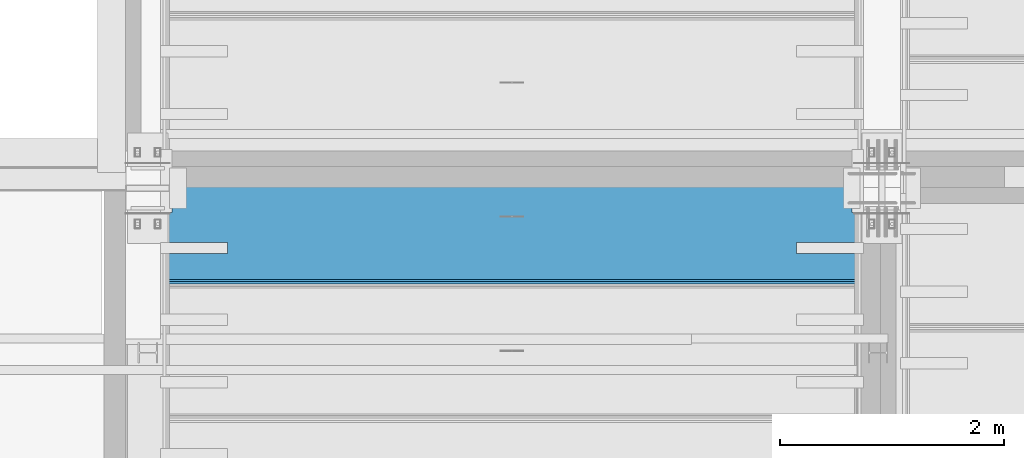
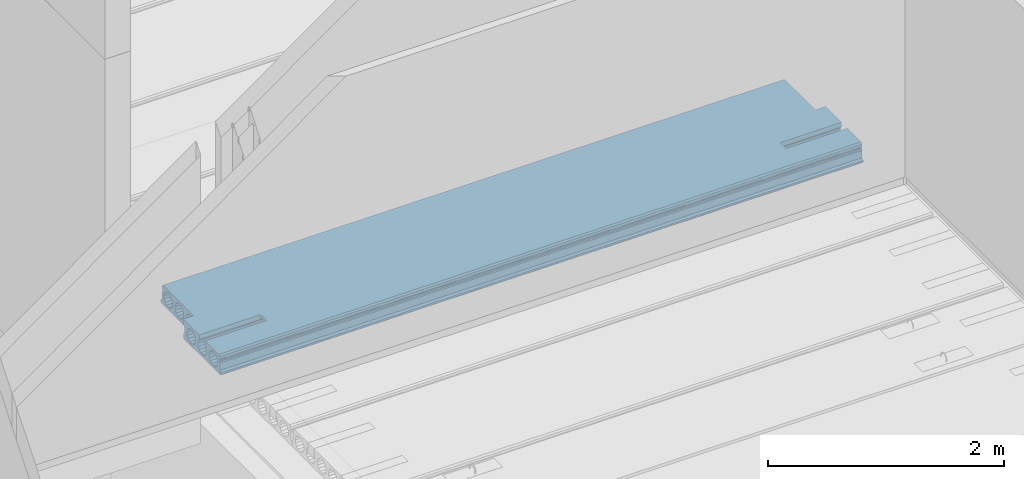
# One storey, part 124 of 230: 1 beam.
"""IFC4X3_ADD2 building model written with IfcOpenShell, lengths in millimetres."""

import ifcopenshell
import ifcopenshell.guid

model = None  # the IFC model being written
_history = None  # IfcOwnerHistory: only IFC2X3 demands one
_inside = {}  # id of a spatial element -> (the spatial element, [elements in it])
_under = {}  # id of a project, library or spatial element -> (it, [spatial elements below it])
_declared = {}  # id of a project -> (the project, [libraries it declares])
_typed = {}  # id of a type object -> (the type object, [elements of that type])
_made_of = {}  # id of a material, layer set ... -> (it, [elements and type objects made of it])


def new_model(schema):
    """Start an empty IFC model of exactly this schema.

    Asked for "IFC4X3", IfcOpenShell would pick the latest addendum, in which some entities
    have other attributes; the version numbers below select the first issue.
    IFC2X3 requires an IfcOwnerHistory on every rooted entity: one is made here for all.
    """
    global model, _history
    if schema == "IFC4X3":
        model = ifcopenshell.file(schema_version=(4, 3, 0, 0))
    else:
        model = ifcopenshell.file(schema=schema)
    _inside.clear()
    _under.clear()
    _declared.clear()
    _typed.clear()
    _made_of.clear()
    _history = None
    if model.schema == "IFC2X3":
        org = make("IfcOrganization", Name="unknown")
        user = make(
            "IfcPersonAndOrganization",
            ThePerson=make("IfcPerson", FamilyName="unknown"),
            TheOrganization=org,
        )
        app = make(
            "IfcApplication",
            ApplicationDeveloper=org,
            Version="unknown",
            ApplicationFullName="unknown",
            ApplicationIdentifier="unknown",
        )
        _history = make(
            "IfcOwnerHistory",
            OwningUser=user,
            OwningApplication=app,
            ChangeAction="ADDED",
            CreationDate=0,
        )
    return model


def make(cls, **values):
    """One entity of the class cls with the attributes given. An attribute that is None is left unset."""
    return model.create_entity(
        cls, **{name: value for name, value in values.items() if value is not None}
    )


def rooted(cls, **values):
    """An entity with a GlobalId (a new one), such as an element, a storey or a relation."""
    return make(cls, GlobalId=ifcopenshell.guid.new(), OwnerHistory=_history, **values)


def si_unit(unit_type, name, prefix=None):
    """IfcSIUnit, for example si_unit("LENGTHUNIT", "METRE", prefix="MILLI")."""
    return make("IfcSIUnit", UnitType=unit_type, Prefix=prefix, Name=name)


def assignment(units):
    """IfcUnitAssignment: the units of a project."""
    return None if units is None else make("IfcUnitAssignment", Units=units)


def point(xyz):
    """IfcCartesianPoint."""
    return None if xyz is None else make("IfcCartesianPoint", Coordinates=xyz)


def direction(xyz):
    """IfcDirection."""
    return None if xyz is None else make("IfcDirection", DirectionRatios=xyz)


def frame(location, z_axis=None, x_axis=None):
    """IfcAxis2Placement3D, a coordinate frame: its origin and axes. An axis left out is left unset."""
    return make(
        "IfcAxis2Placement3D",
        Location=point(location),
        Axis=direction(z_axis),
        RefDirection=direction(x_axis),
    )


def origin_with_axes():
    """The frame at (0, 0, 0) with the z axis (0, 0, 1) and the x axis (1, 0, 0) written out."""
    return frame((0.0, 0.0, 0.0), z_axis=(0.0, 0.0, 1.0), x_axis=(1.0, 0.0, 0.0))


def place(relative_to, where):
    """IfcLocalPlacement: puts the frame where relative to a parent placement (None: the world)."""
    return make(
        "IfcLocalPlacement", PlacementRelTo=relative_to, RelativePlacement=where
    )


def context(
    kind, dimensions, precision=None, world=None, true_north=None, identifier=None
):
    """IfcGeometricRepresentationContext, for example the 3D "Model" context."""
    return make(
        "IfcGeometricRepresentationContext",
        ContextIdentifier=identifier,
        ContextType=kind,
        CoordinateSpaceDimension=dimensions,
        Precision=precision,
        WorldCoordinateSystem=world,
        TrueNorth=true_north,
    )


def subcontext(parent, identifier, kind, view, scale=None):
    """IfcGeometricRepresentationSubContext, for example "Body" below "Model"."""
    return make(
        "IfcGeometricRepresentationSubContext",
        ContextIdentifier=identifier,
        ContextType=kind,
        ParentContext=parent,
        TargetScale=scale,
        TargetView=view,
    )


def project(units=None, contexts=None):
    """IfcProject with its units and contexts."""
    return rooted(
        "IfcProject",
        Name="project",
        RepresentationContexts=contexts,
        UnitsInContext=assignment(units),
    )


def spatial(cls, under=None, at=None, **own):
    """A site, building, storey or space (cls), placed at a placement, below another one or the project."""
    s = rooted(cls, ObjectPlacement=at, **own)
    if under is not None:
        _under.setdefault(under.id(), (under, []))[1].append(s)
    return s


def point_list(points):
    """IfcCartesianPointList2D or 3D."""
    cls = (
        "IfcCartesianPointList2D" if len(points[0]) == 2 else "IfcCartesianPointList3D"
    )
    return make(cls, CoordList=points)


def polygons(points, faces, closed=None, point_numbers=None):
    """IfcPolygonalFaceSet: a face is its outer loop, then its inner loops; points numbered from 1."""
    made = []
    for loops in faces:
        if len(loops) == 1:
            made.append(make("IfcIndexedPolygonalFace", CoordIndex=loops[0]))
        else:
            made.append(
                make(
                    "IfcIndexedPolygonalFaceWithVoids",
                    CoordIndex=loops[0],
                    InnerCoordIndices=loops[1:],
                )
            )
    return make(
        "IfcPolygonalFaceSet",
        Coordinates=point_list(points),
        Closed=closed,
        Faces=made,
        PnIndex=point_numbers,
    )


def shape(context_of_items, identifier, shape_type, items):
    """IfcShapeRepresentation: the items that make up one representation, for example the "Body"."""
    return make(
        "IfcShapeRepresentation",
        ContextOfItems=context_of_items,
        RepresentationIdentifier=identifier,
        RepresentationType=shape_type,
        Items=items,
    )


def made_of(thing, what):
    """Note that an element or type object is made of a material, layer set ...; save() writes the relation."""
    if what is not None:
        _made_of.setdefault(what.id(), (what, []))[1].append(thing)
    return thing


def element(
    cls,
    number,
    at=None,
    inside=None,
    cuts=None,
    type_object=None,
    material=None,
    context=None,
    identifier="Body",
    shape_type=None,
    held_by="IfcProductDefinitionShape",
    body=None,
    shapes=None,
    **own,
):
    """One element of the class cls, such as IfcWall. Its Tag is "e" and its number.

    at: its placement. inside: the storey or other place that contains it. cuts: it is an
    opening in that element (IfcRelVoidsElement). A single representation is given by context,
    identifier, shape_type and body (its items); several are given by shapes. held_by: the class
    of the entity that holds the representations. save() writes the other relations.
    """
    e = rooted(cls, Tag="e%d" % number, ObjectPlacement=at, **own)
    if body is not None:
        shapes = [shape(context, identifier, shape_type, body)]
    if shapes is not None:
        e.Representation = make(held_by, Representations=shapes)
    if inside is not None:
        _inside.setdefault(inside.id(), (inside, []))[1].append(e)
    if cuts is not None:
        rooted(
            "IfcRelVoidsElement", RelatingBuildingElement=cuts, RelatedOpeningElement=e
        )
    if type_object is not None:
        _typed.setdefault(type_object.id(), (type_object, []))[1].append(e)
    return made_of(e, material)


def aggregate(whole, parts):
    """IfcRelAggregates: a whole, such as a stair, and the parts it consists of."""
    return rooted("IfcRelAggregates", RelatingObject=whole, RelatedObjects=parts)


def save(model, path):
    """Write the relations noted so far, then the file.

    IfcRelAggregates (storeys below a building ...), IfcRelContainedInSpatialStructure (elements
    in a storey), IfcRelDefinesByType, IfcRelAssociatesMaterial and IfcRelDeclares: one each for
    every whole, place, type object, material and project.
    """
    for whole, parts in _under.values():
        aggregate(whole, parts)
    for where, things in _inside.values():
        rooted(
            "IfcRelContainedInSpatialStructure",
            RelatedElements=things,
            RelatingStructure=where,
        )
    for kind, things in _typed.values():
        rooted("IfcRelDefinesByType", RelatedObjects=things, RelatingType=kind)
    for what, things in _made_of.values():
        rooted("IfcRelAssociatesMaterial", RelatedObjects=things, RelatingMaterial=what)
    for by, libraries in _declared.values():
        rooted("IfcRelDeclares", RelatingContext=by, RelatedDefinitions=libraries)
    model.write(path)


model = new_model("IFC4X3_ADD2")

# Units and contexts
model_context = context("Model", 3, precision=1e-05, world=origin_with_axes(), true_north=direction((0.0, 1.0)))
body_context = subcontext(model_context, "Body", "Model", "MODEL_VIEW")
ifc_project = project(units=[si_unit("LENGTHUNIT", "METRE", prefix="MILLI"), si_unit("AREAUNIT", "SQUARE_METRE"), si_unit("VOLUMEUNIT", "CUBIC_METRE"), si_unit("PLANEANGLEUNIT", "RADIAN"), si_unit("TIMEUNIT", "SECOND"), si_unit("MASSUNIT", "GRAM")], contexts=[model_context])

# Site, building, storey
site_placement = place(None, origin_with_axes())
site = spatial("IfcSite", under=ifc_project, at=site_placement, Name="Site", CompositionType="ELEMENT")
building_placement = place(site_placement, origin_with_axes())
building = spatial("IfcBuilding", under=site, at=building_placement, Name="IFC Building Story")
storey_placement = place(building_placement, origin_with_axes())
storey = spatial("IfcBuildingStorey", under=building, at=storey_placement, Name="ETAGE 00 (0)", Elevation=0.0)

# Beam
beam_placement = place(storey_placement, origin_with_axes())
element("IfcBeam", 1, at=beam_placement, inside=storey, Name="HOLLOWCORE SLAB", ObjectType="EB_SP200", context=body_context, shape_type="Tessellation", body=[
    polygons([(33516.189, 16961.0009155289, 3999.9999909), (33516.189, 16950.0009155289, 4012.999990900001), (33516.189, 16950.0009155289, 4029.9999909), (33516.189, 16970.0009155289, 4044.999990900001), (33516.189, 16971.45092773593, 4119.9999909), (33516.189, 16978.98353700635, 4128.676139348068), (33516.189, 16981.84084554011, 4139.805000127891), (33516.189, 16979.41955194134, 4151.036789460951), (33516.189, 16972.23089599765, 4159.9999909), (33516.189, 16972.71221169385, 4185.002769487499), (33516.189, 16988.0009155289, 4199.9999909), (33516.189, 17220.0009155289, 4199.9999909), (33516.189, 17220.0009155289, 4155.806158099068), (33516.189, 17215.3214603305, 4152.679446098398), (33516.189, 17199.17189035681, 4128.509906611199), (33516.189, 17193.5009155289, 4099.9999909), (33516.189, 17199.17189035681, 4071.490075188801), (33516.189, 17215.3214603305, 4047.320535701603), (33516.189, 17239.4909998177, 4031.17096572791), (33516.189, 17268.0009155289, 4025.499990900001), (33516.189, 17296.5108312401, 4031.17096572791), (33516.189, 17320.6803707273, 4047.320535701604), (33516.189, 17336.82994070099, 4071.490075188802), (33516.189, 17342.5009155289, 4099.9999909), (33516.189, 17336.82994070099, 4128.5099066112), (33516.189, 17320.6803707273, 4152.679446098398), (33516.189, 17320.0009155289, 4153.13344354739), (33516.189, 17320.0009155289, 4199.9999909), (33516.189, 17590.0009155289, 4199.9999909), (33516.189, 17590.0009155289, 4150.703111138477), (33516.189, 17575.17189035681, 4128.509906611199), (33516.189, 17569.5009155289, 4099.9999909), (33516.189, 17575.17189035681, 4071.490075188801), (33516.189, 17590.0009155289, 4049.296870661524), (33516.189, 17590.0009155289, 3999.9999909), (33516.189, 17508.6803707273, 4152.679446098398), (33516.189, 17484.5108312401, 4168.829016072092), (33516.189, 17456.0009155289, 4174.4999909), (33516.189, 17427.4909998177, 4168.829016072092), (33516.189, 17403.3214603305, 4152.679446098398), (33516.189, 17387.17189035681, 4128.509906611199), (33516.189, 17381.5009155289, 4099.9999909), (33516.189, 17387.17189035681, 4071.490075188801), (33516.189, 17403.3214603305, 4047.320535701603), (33516.189, 17427.4909998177, 4031.17096572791), (33516.189, 17456.0009155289, 4025.499990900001), (33516.189, 17484.5108312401, 4031.17096572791), (33516.189, 17508.6803707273, 4047.320535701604), (33516.189, 17524.82994070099, 4071.490075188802), (33516.189, 17530.5009155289, 4099.9999909), (33516.189, 17524.82994070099, 4128.5099066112), (33516.189, 17132.6803707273, 4152.679446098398), (33516.189, 17108.5108312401, 4168.829016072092), (33516.189, 17080.0009155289, 4174.4999909), (33516.189, 17051.4909998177, 4168.829016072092), (33516.189, 17027.3214603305, 4152.679446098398), (33516.189, 17011.17189035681, 4128.509906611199), (33516.189, 17005.5009155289, 4099.9999909), (33516.189, 17011.17189035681, 4071.490075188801), (33516.189, 17027.3214603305, 4047.320535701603), (33516.189, 17051.4909998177, 4031.17096572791), (33516.189, 17080.0009155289, 4025.499990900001), (33516.189, 17108.5108312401, 4031.17096572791), (33516.189, 17132.6803707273, 4047.320535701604), (33516.189, 17148.82994070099, 4071.490075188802), (33516.189, 17154.5009155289, 4099.9999909), (33516.189, 17148.82994070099, 4128.5099066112), (39801.189, 17320.0009155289, 4199.9999909), (39801.189, 17320.0009155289, 4153.13344354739), (39801.189, 17320.6803707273, 4152.679446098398), (39801.189, 17336.82994070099, 4128.509906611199), (39801.189, 17342.5009155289, 4099.9999909), (39801.189, 17336.82994070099, 4071.490075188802), (39801.189, 17320.6803707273, 4047.320535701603), (39801.189, 17296.5108312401, 4031.17096572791), (39801.189, 17268.0009155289, 4025.499990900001), (39801.189, 17239.4909998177, 4031.17096572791), (39801.189, 17215.3214603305, 4047.320535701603), (39801.189, 17199.17189035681, 4071.490075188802), (39801.189, 17193.5009155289, 4099.9999909), (39801.189, 17199.17189035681, 4128.509906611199), (39801.189, 17215.3214603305, 4152.679446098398), (39801.189, 17220.0009155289, 4155.806158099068), (39801.189, 17220.0009155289, 4199.9999909), (39801.189, 16988.0009155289, 4199.9999909), (39801.189, 16972.71221169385, 4185.002769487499), (39801.189, 16972.23089599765, 4159.9999909), (39801.189, 16979.41955194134, 4151.036789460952), (39801.189, 16981.84084554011, 4139.805000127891), (39801.189, 16978.98353700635, 4128.676139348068), (39801.189, 16971.45092773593, 4119.9999909), (39801.189, 16970.0009155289, 4044.999990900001), (39801.189, 16950.0009155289, 4029.9999909), (39801.189, 16950.0009155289, 4012.999990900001), (39801.189, 16961.0009155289, 3999.9999909), (39801.189, 17590.0009155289, 3999.9999909), (39801.189, 17590.0009155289, 4049.296870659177), (39801.189, 17575.17189035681, 4071.490075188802), (39801.189, 17569.5009155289, 4099.9999909), (39801.189, 17575.17189035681, 4128.509906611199), (39801.189, 17590.0009155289, 4150.703111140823), (39801.189, 17590.0009155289, 4199.9999909), (39801.189, 17508.6803707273, 4152.679446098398), (39801.189, 17524.82994070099, 4128.509906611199), (39801.189, 17530.5009155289, 4099.9999909), (39801.189, 17524.82994070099, 4071.490075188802), (39801.189, 17508.6803707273, 4047.320535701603), (39801.189, 17484.5108312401, 4031.17096572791), (39801.189, 17456.0009155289, 4025.499990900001), (39801.189, 17427.4909998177, 4031.17096572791), (39801.189, 17403.3214603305, 4047.320535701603), (39801.189, 17387.17189035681, 4071.490075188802), (39801.189, 17381.5009155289, 4099.9999909), (39801.189, 17387.17189035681, 4128.509906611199), (39801.189, 17403.3214603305, 4152.679446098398), (39801.189, 17427.4909998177, 4168.829016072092), (39801.189, 17456.0009155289, 4174.4999909), (39801.189, 17484.5108312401, 4168.829016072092), (39801.189, 17132.6803707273, 4152.679446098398), (39801.189, 17148.82994070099, 4128.509906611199), (39801.189, 17154.5009155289, 4099.9999909), (39801.189, 17148.82994070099, 4071.490075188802), (39801.189, 17132.6803707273, 4047.320535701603), (39801.189, 17108.5108312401, 4031.17096572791), (39801.189, 17080.0009155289, 4025.499990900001), (39801.189, 17051.4909998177, 4031.17096572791), (39801.189, 17027.3214603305, 4047.320535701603), (39801.189, 17011.17189035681, 4071.490075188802), (39801.189, 17005.5009155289, 4099.9999909), (39801.189, 17011.17189035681, 4128.509906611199), (39801.189, 17027.3214603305, 4152.679446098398), (39801.189, 17051.4909998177, 4168.829016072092), (39801.189, 17080.0009155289, 4174.4999909), (39801.189, 17108.5108312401, 4168.829016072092), (33616.189, 17590.0009155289, 3999.9999909), (33616.189, 18139.0009155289, 3999.9999909), (39701.18900000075, 18139.0009155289, 3999.9999909), (39701.18900000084, 17590.0009155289, 3999.9999909), (39201.189, 17220.0009155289, 4199.9999909), (39201.189, 17320.0009155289, 4199.9999909), (39701.18900000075, 17590.0009155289, 4199.9999909), (39701.18900000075, 18112.0009155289, 4199.9999909), (33616.189, 18112.0009155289, 4199.9999909), (33616.189, 17590.0009155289, 4199.9999909), (34116.189, 17320.0009155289, 4199.9999909), (34116.189, 17220.0009155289, 4199.9999909), (33616.189, 18127.28961936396, 4185.002769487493), (39701.18900000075, 18127.28961936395, 4185.002769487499), (33616.189, 18127.77093506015, 4159.9999909), (39701.18900000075, 18127.77093506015, 4159.9999909), (33616.189, 18120.58227911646, 4151.036789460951), (39701.18900000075, 18120.58227911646, 4151.036789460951), (33616.189, 18118.16098551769, 4139.805000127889), (39701.18900000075, 18118.16098551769, 4139.805000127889), (33616.189, 18121.01829405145, 4128.676139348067), (39701.18900000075, 18121.01829405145, 4128.676139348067), (33616.189, 18128.55090332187, 4119.9999909), (39701.18900000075, 18128.55090332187, 4119.9999909), (33616.189, 18130.0009155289, 4044.9999909), (39701.18900000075, 18130.0009155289, 4044.999990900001), (33616.189, 18150.0009155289, 4029.9999909), (39701.18900000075, 18150.0009155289, 4029.9999909), (33616.189, 18150.0009155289, 4012.9999909), (39701.18900000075, 18150.0009155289, 4012.9999909), (33616.189, 18048.5108312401, 4168.82901607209), (33616.189, 18072.6803707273, 4152.679446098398), (39701.18900000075, 18072.6803707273, 4152.679446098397), (39701.18900000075, 18048.5108312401, 4168.829016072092), (33616.189, 18020.0009155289, 4174.499990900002), (39701.18900000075, 18020.0009155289, 4174.4999909), (33616.189, 17991.4909998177, 4168.829016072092), (39701.18900000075, 17991.4909998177, 4168.829016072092), (33616.189, 17967.3214603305, 4152.679446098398), (39701.18900000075, 17967.3214603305, 4152.679446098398), (33616.189, 17951.17189035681, 4128.509906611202), (39701.18900000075, 17951.17189035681, 4128.509906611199), (33616.189, 17945.5009155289, 4099.9999909), (39701.18900000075, 17945.5009155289, 4099.9999909), (33616.189, 17951.17189035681, 4071.490075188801), (39701.18900000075, 17951.17189035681, 4071.490075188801), (33616.189, 17967.3214603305, 4047.320535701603), (39701.18900000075, 17967.3214603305, 4047.320535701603), (33616.189, 17991.4909998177, 4031.17096572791), (39701.18900000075, 17991.4909998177, 4031.17096572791), (33616.189, 18020.0009155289, 4025.499990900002), (39701.18900000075, 18020.0009155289, 4025.499990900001), (33616.189, 18048.5108312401, 4031.170965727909), (39701.18900000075, 18048.5108312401, 4031.17096572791), (33616.189, 18072.6803707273, 4047.320535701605), (39701.18900000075, 18072.6803707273, 4047.320535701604), (33616.189, 18088.82994070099, 4071.490075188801), (39701.18900000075, 18088.82994070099, 4071.490075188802), (33616.189, 18094.5009155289, 4099.9999909), (39701.18900000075, 18094.5009155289, 4099.9999909), (33616.189, 18088.82994070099, 4128.5099066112), (39701.18900000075, 18088.82994070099, 4128.5099066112), (33616.189, 17860.5108312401, 4168.82901607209), (33616.189, 17884.6803707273, 4152.679446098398), (39701.18900000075, 17884.6803707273, 4152.679446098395), (39701.18900000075, 17860.5108312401, 4168.829016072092), (33616.189, 17832.0009155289, 4174.4999909), (39701.18900000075, 17832.0009155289, 4174.4999909), (33616.189, 17803.4909998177, 4168.829016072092), (39701.18900000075, 17803.4909998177, 4168.829016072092), (33616.189, 17779.3214603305, 4152.6794460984), (39701.18900000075, 17779.3214603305, 4152.679446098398), (33616.189, 17763.17189035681, 4128.509906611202), (39701.18900000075, 17763.17189035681, 4128.509906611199), (33616.189, 17757.5009155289, 4099.9999909), (39701.18900000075, 17757.5009155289, 4099.9999909), (33616.189, 17763.17189035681, 4071.490075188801), (39701.18900000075, 17763.17189035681, 4071.490075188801), (33616.189, 17779.3214603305, 4047.320535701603), (39701.18900000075, 17779.3214603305, 4047.320535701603), (33616.189, 17803.4909998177, 4031.170965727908), (39701.18900000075, 17803.4909998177, 4031.17096572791), (33616.189, 17832.0009155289, 4025.4999909), (39701.18900000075, 17832.0009155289, 4025.499990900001), (33616.189, 17860.5108312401, 4031.170965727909), (39701.18900000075, 17860.5108312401, 4031.17096572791), (33616.189, 17884.6803707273, 4047.320535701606), (39701.18900000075, 17884.6803707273, 4047.320535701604), (33616.189, 17900.82994070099, 4071.490075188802), (39701.18900000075, 17900.82994070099, 4071.490075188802), (33616.189, 17906.5009155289, 4099.9999909), (39701.18900000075, 17906.5009155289, 4099.9999909), (33616.189, 17900.82994070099, 4128.509906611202), (39701.18900000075, 17900.82994070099, 4128.5099066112), (33616.189, 17672.5108312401, 4168.82901607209), (33616.189, 17696.6803707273, 4152.679446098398), (39701.18900000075, 17696.6803707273, 4152.679446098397), (39701.18900000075, 17672.5108312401, 4168.829016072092), (33616.189, 17644.0009155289, 4174.4999909), (39701.18900000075, 17644.0009155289, 4174.4999909), (33616.189, 17615.4909998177, 4168.829016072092), (39701.18900000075, 17615.4909998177, 4168.829016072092), (33616.189, 17591.3214603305, 4152.679446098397), (39701.18900000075, 17591.3214603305, 4152.679446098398), (33616.189, 17590.0009155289, 4150.703111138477), (39701.18900000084, 17590.0009155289, 4150.703111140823), (39701.18900000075, 17590.0009155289, 4049.296870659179), (39701.18900000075, 17591.3214603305, 4047.320535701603), (33616.189, 17591.3214603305, 4047.320535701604), (33616.189, 17590.0009155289, 4049.296870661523), (33616.189, 17615.4909998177, 4031.170965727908), (39701.18900000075, 17615.4909998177, 4031.17096572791), (33616.189, 17644.0009155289, 4025.499990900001), (39701.18900000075, 17644.0009155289, 4025.499990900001), (33616.189, 17672.5108312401, 4031.17096572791), (39701.18900000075, 17672.5108312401, 4031.17096572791), (33616.189, 17696.6803707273, 4047.320535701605), (39701.18900000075, 17696.6803707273, 4047.320535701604), (33616.189, 17712.82994070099, 4071.490075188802), (39701.18900000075, 17712.82994070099, 4071.490075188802), (33616.189, 17718.5009155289, 4099.9999909), (39701.18900000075, 17718.5009155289, 4099.9999909), (33616.189, 17712.82994070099, 4128.509906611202), (39701.18900000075, 17712.82994070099, 4128.5099066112), (39201.189, 17320.0009155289, 4153.133443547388), (39201.189, 17296.5108312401, 4168.829016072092), (34116.189, 17296.5108312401, 4168.829016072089), (34116.189, 17320.0009155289, 4153.133443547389), (39201.189, 17268.0009155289, 4174.4999909), (34116.189, 17268.0009155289, 4174.4999909), (39201.189, 17239.4909998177, 4168.829016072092), (34116.189, 17239.4909998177, 4168.829016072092), (34116.189, 17220.0009155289, 4155.806158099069), (39201.189, 17220.0009155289, 4155.806158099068), (39201.189, 17320.0009155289, 4199.9999969), (39201.189, 17220.0009155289, 4199.9999969), (34116.189, 17220.0009155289, 4199.9999969), (34116.189, 17320.0009155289, 4199.9999969), (39701.18900000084, 17590.0009155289, 3999.999996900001), (39701.18900000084, 17590.0009155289, 4199.9999969)], [[[26, 27, 28]], [[39, 40, 25]], [[39, 25, 26]], [[39, 26, 28]], [[28, 38, 39]], [[28, 29, 38]], [[29, 37, 38]], [[29, 36, 37]], [[41, 42, 24]], [[41, 24, 25]], [[25, 40, 41]], [[43, 44, 23]], [[23, 24, 42]], [[23, 42, 43]], [[51, 36, 29]], [[51, 29, 30]], [[31, 32, 50]], [[31, 50, 51]], [[51, 30, 31]], [[33, 34, 49]], [[49, 50, 32]], [[49, 32, 33]], [[34, 35, 48]], [[34, 48, 49]], [[35, 47, 48]], [[35, 46, 47]], [[46, 35, 22]], [[22, 45, 46]], [[22, 23, 44]], [[22, 44, 45]], [[35, 21, 22]], [[35, 20, 21]], [[35, 1, 20]], [[1, 19, 20]], [[1, 18, 19]], [[8, 9, 10]], [[8, 10, 11]], [[56, 57, 7]], [[56, 7, 8]], [[8, 11, 55]], [[8, 55, 56]], [[11, 54, 55]], [[54, 11, 12]], [[12, 53, 54]], [[12, 52, 53]], [[57, 6, 7]], [[59, 60, 4]], [[4, 5, 58]], [[4, 58, 59]], [[5, 6, 57]], [[5, 57, 58]], [[63, 64, 17]], [[63, 17, 18]], [[18, 62, 63]], [[18, 1, 62]], [[1, 61, 62]], [[1, 4, 60]], [[1, 60, 61]], [[1, 2, 3]], [[1, 3, 4]], [[65, 66, 16]], [[65, 16, 17]], [[17, 64, 65]], [[67, 52, 15]], [[15, 16, 66]], [[15, 66, 67]], [[52, 12, 14]], [[52, 14, 15]], [[12, 13, 14]], [[92, 93, 94]], [[92, 94, 95]], [[100, 101, 102]], [[100, 102, 103]], [[104, 105, 99]], [[104, 99, 100]], [[100, 103, 104]], [[105, 106, 98]], [[105, 98, 99]], [[118, 103, 102]], [[102, 117, 118]], [[117, 102, 68]], [[68, 116, 117]], [[68, 115, 116]], [[68, 69, 114]], [[68, 114, 115]], [[71, 72, 113]], [[71, 113, 114]], [[114, 70, 71]], [[114, 69, 70]], [[73, 74, 112]], [[112, 113, 72]], [[112, 72, 73]], [[74, 111, 112]], [[82, 83, 84]], [[84, 119, 81]], [[84, 81, 82]], [[120, 121, 80]], [[120, 80, 81]], [[81, 119, 120]], [[122, 123, 79]], [[79, 80, 121]], [[79, 121, 122]], [[129, 130, 90]], [[129, 90, 91]], [[91, 92, 128]], [[91, 128, 129]], [[92, 95, 127]], [[92, 127, 128]], [[95, 126, 127]], [[95, 125, 126]], [[95, 124, 125]], [[95, 78, 124]], [[78, 79, 123]], [[78, 123, 124]], [[95, 77, 78]], [[95, 76, 77]], [[95, 110, 76]], [[110, 75, 76]], [[110, 111, 74]], [[110, 74, 75]], [[95, 109, 110]], [[95, 96, 109]], [[96, 108, 109]], [[96, 107, 108]], [[96, 98, 106]], [[96, 106, 107]], [[96, 97, 98]], [[130, 89, 90]], [[134, 119, 84]], [[84, 133, 134]], [[84, 85, 133]], [[85, 132, 133]], [[85, 88, 131]], [[85, 131, 132]], [[88, 89, 130]], [[88, 130, 131]], [[85, 86, 87]], [[85, 87, 88]], [[138, 96, 95]], [[138, 95, 135]], [[135, 136, 137]], [[135, 137, 138]], [[95, 1, 135]], [[1, 35, 135]], [[2, 1, 95, 94]], [[3, 2, 94, 93]], [[4, 3, 93, 92]], [[5, 4, 92, 91]], [[6, 5, 91, 90]], [[7, 6, 90, 89]], [[8, 7, 89, 88]], [[9, 8, 88, 87]], [[10, 9, 87, 86]], [[11, 10, 86, 85]], [[141, 142, 140]], [[140, 68, 141]], [[68, 102, 141]], [[140, 142, 143]], [[143, 139, 140]], [[144, 29, 28]], [[146, 12, 11]], [[146, 11, 85]], [[85, 145, 146]], [[85, 139, 143]], [[85, 143, 145]], [[144, 28, 145]], [[145, 143, 144]], [[85, 84, 139]], [[147, 143, 142, 148]], [[149, 147, 148, 150]], [[151, 149, 150, 152]], [[153, 151, 152, 154]], [[155, 153, 154, 156]], [[157, 155, 156, 158]], [[159, 157, 158, 160]], [[161, 159, 160, 162]], [[163, 161, 162, 164]], [[136, 163, 164, 137]], [[165, 166, 167, 168]], [[169, 165, 168, 170]], [[171, 169, 170, 172]], [[173, 171, 172, 174]], [[175, 173, 174, 176]], [[177, 175, 176, 178]], [[179, 177, 178, 180]], [[181, 179, 180, 182]], [[183, 181, 182, 184]], [[185, 183, 184, 186]], [[187, 185, 186, 188]], [[189, 187, 188, 190]], [[191, 189, 190, 192]], [[193, 191, 192, 194]], [[195, 193, 194, 196]], [[166, 195, 196, 167]], [[197, 198, 199, 200]], [[201, 197, 200, 202]], [[203, 201, 202, 204]], [[205, 203, 204, 206]], [[207, 205, 206, 208]], [[209, 207, 208, 210]], [[211, 209, 210, 212]], [[213, 211, 212, 214]], [[215, 213, 214, 216]], [[217, 215, 216, 218]], [[219, 217, 218, 220]], [[221, 219, 220, 222]], [[223, 221, 222, 224]], [[225, 223, 224, 226]], [[227, 225, 226, 228]], [[198, 227, 228, 199]], [[229, 230, 231, 232]], [[233, 229, 232, 234]], [[235, 233, 234, 236]], [[237, 235, 236, 238]], [[239, 237, 238]], [[240, 101, 100]], [[240, 100, 31]], [[240, 31, 239]], [[239, 238, 240]], [[31, 30, 239]], [[32, 31, 100, 99]], [[33, 32, 99, 98]], [[241, 242, 243]], [[244, 34, 33]], [[244, 33, 98]], [[244, 98, 241]], [[241, 243, 244]], [[98, 97, 241]], [[245, 243, 242, 246]], [[247, 245, 246, 248]], [[249, 247, 248, 250]], [[251, 249, 250, 252]], [[253, 251, 252, 254]], [[255, 253, 254, 256]], [[257, 255, 256, 258]], [[230, 257, 258, 231]], [[37, 36, 103, 118]], [[38, 37, 118, 117]], [[39, 38, 117, 116]], [[40, 39, 116, 115]], [[41, 40, 115, 114]], [[42, 41, 114, 113]], [[43, 42, 113, 112]], [[44, 43, 112, 111]], [[45, 44, 111, 110]], [[46, 45, 110, 109]], [[47, 46, 109, 108]], [[48, 47, 108, 107]], [[49, 48, 107, 106]], [[50, 49, 106, 105]], [[51, 50, 105, 104]], [[36, 51, 104, 103]], [[262, 27, 26]], [[262, 26, 259]], [[259, 260, 261]], [[259, 261, 262]], [[26, 70, 259]], [[70, 69, 259]], [[261, 260, 263, 264]], [[264, 263, 265, 266]], [[268, 83, 82]], [[268, 82, 267]], [[267, 266, 265]], [[267, 265, 268]], [[82, 14, 267]], [[14, 13, 267]], [[15, 14, 82, 81]], [[16, 15, 81, 80]], [[17, 16, 80, 79]], [[18, 17, 79, 78]], [[19, 18, 78, 77]], [[20, 19, 77, 76]], [[21, 20, 76, 75]], [[22, 21, 75, 74]], [[23, 22, 74, 73]], [[24, 23, 73, 72]], [[25, 24, 72, 71]], [[26, 25, 71, 70]], [[53, 52, 119, 134]], [[54, 53, 134, 133]], [[55, 54, 133, 132]], [[56, 55, 132, 131]], [[57, 56, 131, 130]], [[58, 57, 130, 129]], [[59, 58, 129, 128]], [[60, 59, 128, 127]], [[61, 60, 127, 126]], [[62, 61, 126, 125]], [[63, 62, 125, 124]], [[64, 63, 124, 123]], [[65, 64, 123, 122]], [[66, 65, 122, 121]], [[67, 66, 121, 120]], [[52, 67, 120, 119]], [[84, 83, 268, 139]], [[69, 68, 269, 259]], [[260, 259, 140]], [[140, 270, 263]], [[140, 263, 260]], [[270, 265, 263]], [[270, 268, 265]], [[28, 27, 262, 145]], [[13, 12, 271, 267]], [[266, 267, 146]], [[146, 264, 266]], [[146, 272, 261]], [[146, 261, 264]], [[272, 262, 261]], [[35, 34, 244, 135]], [[151, 153, 195]], [[151, 195, 166]], [[166, 143, 147]], [[166, 147, 149]], [[166, 149, 151]], [[155, 157, 193]], [[155, 193, 195]], [[195, 153, 155]], [[157, 159, 191]], [[157, 191, 193]], [[159, 161, 163]], [[159, 163, 136]], [[136, 189, 191]], [[136, 191, 159]], [[136, 187, 189]], [[136, 185, 187]], [[136, 183, 185]], [[237, 239, 144]], [[144, 235, 237]], [[144, 233, 235]], [[144, 229, 233]], [[229, 144, 203]], [[229, 203, 205]], [[205, 230, 229]], [[144, 201, 203]], [[201, 144, 143]], [[143, 197, 201]], [[143, 198, 197]], [[205, 257, 230]], [[207, 209, 255]], [[207, 255, 257]], [[257, 205, 207]], [[209, 211, 253]], [[209, 253, 255]], [[211, 251, 253]], [[211, 249, 251]], [[183, 136, 219]], [[219, 221, 183]], [[221, 181, 183]], [[136, 217, 219]], [[136, 135, 217]], [[135, 215, 217]], [[135, 213, 215]], [[249, 211, 213]], [[213, 135, 249]], [[135, 247, 249]], [[135, 245, 247]], [[135, 243, 245]], [[135, 244, 243]], [[221, 179, 181]], [[223, 225, 177]], [[223, 177, 179]], [[179, 221, 223]], [[227, 198, 175]], [[175, 177, 225]], [[175, 225, 227]], [[198, 173, 175]], [[198, 171, 173]], [[198, 169, 171]], [[198, 143, 169]], [[143, 165, 169]], [[143, 166, 165]], [[273, 241, 97, 96]], [[168, 167, 196]], [[168, 196, 194]], [[168, 194, 192]], [[168, 192, 190]], [[168, 190, 188]], [[168, 188, 186]], [[168, 186, 184]], [[168, 184, 182]], [[168, 182, 180]], [[168, 180, 178]], [[168, 178, 176]], [[168, 176, 174]], [[168, 174, 172]], [[168, 172, 170]], [[240, 141, 102, 101]], [[30, 29, 144, 239]]]),
])

save(model, "model.ifc")
